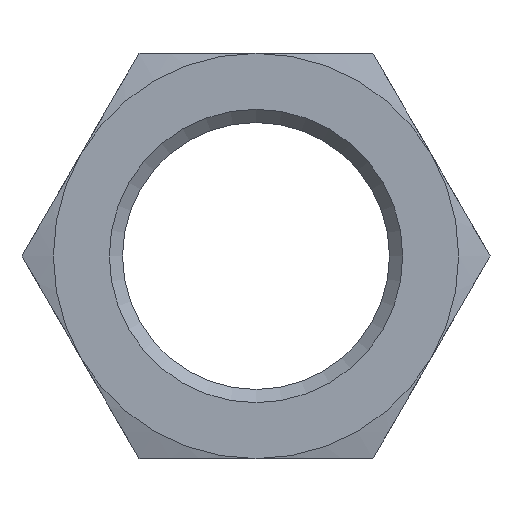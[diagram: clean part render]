
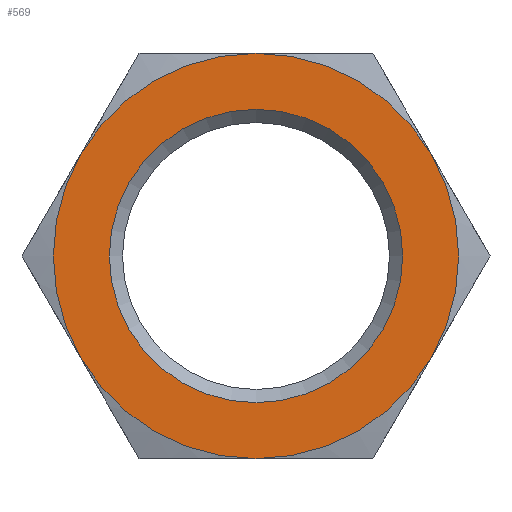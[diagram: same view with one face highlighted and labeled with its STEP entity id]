
A CAD part, front view. The second image highlights one B-rep face of the part: STEP entity #569.
In plain terms, the highlighted planar face has unit normal (0, -1, 0).
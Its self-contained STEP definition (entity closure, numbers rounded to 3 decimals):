
#36=FACE_BOUND('',#159,.T.);
#40=PLANE('',#657);
#122=FACE_OUTER_BOUND('',#158,.T.);
#158=EDGE_LOOP('',(#455,#456,#457,#458,#459,#460));
#159=EDGE_LOOP('',(#461));
#209=CIRCLE('',#651,16.65);
#214=CIRCLE('',#658,23.);
#215=CIRCLE('',#659,23.);
#216=CIRCLE('',#660,23.);
#217=CIRCLE('',#661,23.);
#218=CIRCLE('',#662,23.);
#219=CIRCLE('',#663,23.);
#262=VERTEX_POINT('',#984);
#267=VERTEX_POINT('',#998);
#268=VERTEX_POINT('',#999);
#269=VERTEX_POINT('',#1001);
#270=VERTEX_POINT('',#1003);
#271=VERTEX_POINT('',#1005);
#272=VERTEX_POINT('',#1007);
#330=EDGE_CURVE('',#262,#262,#209,.T.);
#337=EDGE_CURVE('',#267,#268,#214,.T.);
#338=EDGE_CURVE('',#269,#267,#215,.T.);
#339=EDGE_CURVE('',#270,#269,#216,.T.);
#340=EDGE_CURVE('',#271,#270,#217,.T.);
#341=EDGE_CURVE('',#272,#271,#218,.T.);
#342=EDGE_CURVE('',#268,#272,#219,.T.);
#455=ORIENTED_EDGE('',*,*,#337,.F.);
#456=ORIENTED_EDGE('',*,*,#338,.F.);
#457=ORIENTED_EDGE('',*,*,#339,.F.);
#458=ORIENTED_EDGE('',*,*,#340,.F.);
#459=ORIENTED_EDGE('',*,*,#341,.F.);
#460=ORIENTED_EDGE('',*,*,#342,.F.);
#461=ORIENTED_EDGE('',*,*,#330,.F.);
#569=ADVANCED_FACE('',(#122,#36),#40,.T.);
#651=AXIS2_PLACEMENT_3D('',#985,#785,#786);
#657=AXIS2_PLACEMENT_3D('',#997,#799,#800);
#658=AXIS2_PLACEMENT_3D('',#1000,#801,#802);
#659=AXIS2_PLACEMENT_3D('',#1002,#803,#804);
#660=AXIS2_PLACEMENT_3D('',#1004,#805,#806);
#661=AXIS2_PLACEMENT_3D('',#1006,#807,#808);
#662=AXIS2_PLACEMENT_3D('',#1008,#809,#810);
#663=AXIS2_PLACEMENT_3D('',#1009,#811,#812);
#785=DIRECTION('center_axis',(0.,-1.,0.));
#786=DIRECTION('ref_axis',(0.,0.,-1.));
#799=DIRECTION('center_axis',(0.,-1.,0.));
#800=DIRECTION('ref_axis',(0.,0.,-1.));
#801=DIRECTION('center_axis',(0.,1.,0.));
#802=DIRECTION('ref_axis',(1.,0.,0.));
#803=DIRECTION('center_axis',(0.,1.,0.));
#804=DIRECTION('ref_axis',(1.,0.,0.));
#805=DIRECTION('center_axis',(0.,1.,0.));
#806=DIRECTION('ref_axis',(1.,0.,0.));
#807=DIRECTION('center_axis',(0.,1.,0.));
#808=DIRECTION('ref_axis',(1.,0.,0.));
#809=DIRECTION('center_axis',(0.,1.,0.));
#810=DIRECTION('ref_axis',(1.,0.,0.));
#811=DIRECTION('center_axis',(0.,1.,0.));
#812=DIRECTION('ref_axis',(1.,0.,0.));
#984=CARTESIAN_POINT('',(0.,-51.,16.65));
#985=CARTESIAN_POINT('Origin',(0.,-51.,0.));
#997=CARTESIAN_POINT('Origin',(0.,-51.,23.));
#998=CARTESIAN_POINT('',(0.,-51.,23.));
#999=CARTESIAN_POINT('',(19.919,-51.,11.5));
#1000=CARTESIAN_POINT('Origin',(0.,-51.,0.));
#1001=CARTESIAN_POINT('',(-19.919,-51.,11.5));
#1002=CARTESIAN_POINT('Origin',(0.,-51.,0.));
#1003=CARTESIAN_POINT('',(-19.919,-51.,-11.5));
#1004=CARTESIAN_POINT('Origin',(0.,-51.,0.));
#1005=CARTESIAN_POINT('',(0.,-51.,-23.));
#1006=CARTESIAN_POINT('Origin',(0.,-51.,0.));
#1007=CARTESIAN_POINT('',(19.919,-51.,-11.5));
#1008=CARTESIAN_POINT('Origin',(0.,-51.,0.));
#1009=CARTESIAN_POINT('Origin',(0.,-51.,0.));
